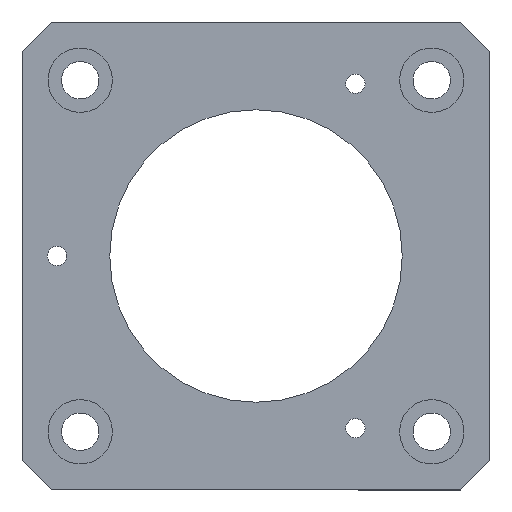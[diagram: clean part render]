
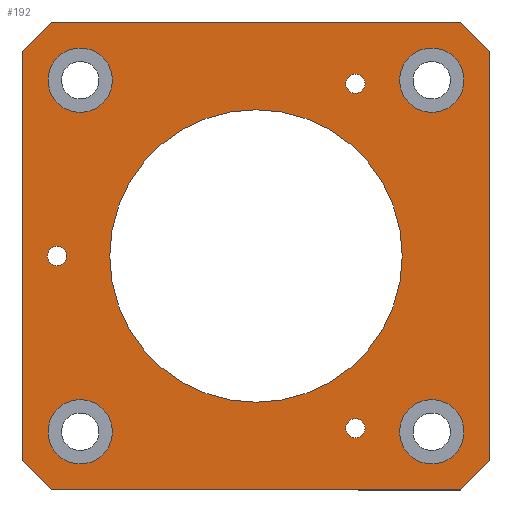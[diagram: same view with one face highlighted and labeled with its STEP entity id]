
A CAD part, left-side view. The second image highlights one B-rep face of the part: STEP entity #192.
In plain terms, the highlighted planar face has unit normal (-1, 0, 0).
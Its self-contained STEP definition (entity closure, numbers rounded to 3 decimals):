
#110 = EDGE_LOOP ( 'NONE', ( #148 ) ) ;
#112 = EDGE_CURVE ( 'NONE', #113, #152, #454, .T. ) ;
#113 = VERTEX_POINT ( 'NONE', #524 ) ;
#115 = VERTEX_POINT ( 'NONE', #480 ) ;
#116 = VERTEX_POINT ( 'NONE', #479 ) ;
#117 = EDGE_CURVE ( 'NONE', #788, #788, #457, .T. ) ;
#118 = ORIENTED_EDGE ( 'NONE', *, *, #191, .F. ) ;
#119 = EDGE_LOOP ( 'NONE', ( #131 ) ) ;
#120 = EDGE_LOOP ( 'NONE', ( #130 ) ) ;
#121 = EDGE_CURVE ( 'NONE', #113, #116, #460, .T. ) ;
#122 = EDGE_LOOP ( 'NONE', ( #190 ) ) ;
#123 = ORIENTED_EDGE ( 'NONE', *, *, #143, .T. ) ;
#124 = EDGE_CURVE ( 'NONE', #125, #115, #465, .T. ) ;
#125 = VERTEX_POINT ( 'NONE', #523 ) ;
#126 = VERTEX_POINT ( 'NONE', #510 ) ;
#129 = EDGE_LOOP ( 'NONE', ( #169 ) ) ;
#130 = ORIENTED_EDGE ( 'NONE', *, *, #173, .F. ) ;
#131 = ORIENTED_EDGE ( 'NONE', *, *, #162, .F. ) ;
#134 = VECTOR ( 'NONE', #141, 1000. ) ;
#137 = EDGE_LOOP ( 'NONE', ( #142 ) ) ;
#140 = CARTESIAN_POINT ( 'NONE',  ( 0., 30.05, -30.05 ) ) ;
#141 = DIRECTION ( 'NONE',  ( 0., -0.707, 0.707 ) ) ;
#142 = ORIENTED_EDGE ( 'NONE', *, *, #117, .T. ) ;
#143 = EDGE_CURVE ( 'NONE', #126, #115, #500, .T. ) ;
#144 = ORIENTED_EDGE ( 'NONE', *, *, #145, .F. ) ;
#145 = EDGE_CURVE ( 'NONE', #164, #146, #493, .T. ) ;
#146 = VERTEX_POINT ( 'NONE', #509 ) ;
#147 = EDGE_LOOP ( 'NONE', ( #118, #123, #193, #168, #144, #167, #150, #184 ) ) ;
#148 = ORIENTED_EDGE ( 'NONE', *, *, #163, .F. ) ;
#150 = ORIENTED_EDGE ( 'NONE', *, *, #112, .F. ) ;
#152 = VERTEX_POINT ( 'NONE', #518 ) ;
#153 = ORIENTED_EDGE ( 'NONE', *, *, #179, .F. ) ;
#155 = EDGE_LOOP ( 'NONE', ( #166 ) ) ;
#162 = EDGE_CURVE ( 'NONE', #786, #786, #488, .T. ) ;
#163 = EDGE_CURVE ( 'NONE', #761, #761, #486, .T. ) ;
#164 = VERTEX_POINT ( 'NONE', #472 ) ;
#165 = EDGE_CURVE ( 'NONE', #125, #146, #203, .T. ) ;
#166 = ORIENTED_EDGE ( 'NONE', *, *, #171, .F. ) ;
#167 = ORIENTED_EDGE ( 'NONE', *, *, #189, .T. ) ;
#168 = ORIENTED_EDGE ( 'NONE', *, *, #165, .T. ) ;
#169 = ORIENTED_EDGE ( 'NONE', *, *, #174, .F. ) ;
#170 = EDGE_CURVE ( 'NONE', #759, #759, #439, .T. ) ;
#171 = EDGE_CURVE ( 'NONE', #757, #757, #438, .T. ) ;
#173 = EDGE_CURVE ( 'NONE', #747, #747, #551, .T. ) ;
#174 = EDGE_CURVE ( 'NONE', #749, #749, #537, .T. ) ;
#179 = EDGE_CURVE ( 'NONE', #751, #751, #553, .T. ) ;
#183 = DIRECTION ( 'NONE',  ( -1., 0., 0. ) ) ;
#184 = ORIENTED_EDGE ( 'NONE', *, *, #121, .T. ) ;
#186 = AXIS2_PLACEMENT_3D ( 'NONE', #140, #183, #474 ) ;
#188 = EDGE_LOOP ( 'NONE', ( #153 ) ) ;
#189 = EDGE_CURVE ( 'NONE', #164, #152, #582, .T. ) ;
#190 = ORIENTED_EDGE ( 'NONE', *, *, #170, .F. ) ;
#191 = EDGE_CURVE ( 'NONE', #126, #116, #565, .T. ) ;
#192 = ADVANCED_FACE ( 'NONE', ( #580, #569, #575, #260, #495, #263, #568, #574, #583 ), #576, .F. ) ;
#193 = ORIENTED_EDGE ( 'NONE', *, *, #124, .F. ) ;
#202 = CARTESIAN_POINT ( 'NONE',  ( 0., -35., -40. ) ) ;
#203 = LINE ( 'NONE', #202, #134 ) ;
#260 = FACE_BOUND ( 'NONE', #120, .T. ) ;
#263 = FACE_BOUND ( 'NONE', #119, .T. ) ;
#347 = AXIS2_PLACEMENT_3D ( 'NONE', #447, #443, #442 ) ;
#438 = CIRCLE ( 'NONE', #347, 1.65 ) ;
#439 = CIRCLE ( 'NONE', #186, 5.5 ) ;
#442 = DIRECTION ( 'NONE',  ( 0., 0., 1. ) ) ;
#443 = DIRECTION ( 'NONE',  ( -1., 0., 0. ) ) ;
#447 = CARTESIAN_POINT ( 'NONE',  ( 0., -17., -29.445 ) ) ;
#454 = LINE ( 'NONE', #513, #512 ) ;
#457 = CIRCLE ( 'NONE', #463, 25. ) ;
#458 = VECTOR ( 'NONE', #481, 1000. ) ;
#459 = CARTESIAN_POINT ( 'NONE',  ( 0., 35., 40. ) ) ;
#460 = LINE ( 'NONE', #459, #458 ) ;
#461 = DIRECTION ( 'NONE',  ( 0., 0., -1. ) ) ;
#462 = DIRECTION ( 'NONE',  ( 1., 0., 0. ) ) ;
#463 = AXIS2_PLACEMENT_3D ( 'NONE', #484, #462, #461 ) ;
#465 = LINE ( 'NONE', #521, #520 ) ;
#469 = DIRECTION ( 'NONE',  ( 0., 0., 1. ) ) ;
#470 = AXIS2_PLACEMENT_3D ( 'NONE', #473, #517, #469 ) ;
#472 = CARTESIAN_POINT ( 'NONE',  ( 0., -40., 35. ) ) ;
#473 = CARTESIAN_POINT ( 'NONE',  ( 0., 34., 0. ) ) ;
#474 = DIRECTION ( 'NONE',  ( 0., 0., 1. ) ) ;
#475 = DIRECTION ( 'NONE',  ( 0., 0., 1. ) ) ;
#476 = DIRECTION ( 'NONE',  ( -1., 0., 0. ) ) ;
#477 = CARTESIAN_POINT ( 'NONE',  ( 0., -30.05, -30.05 ) ) ;
#478 = AXIS2_PLACEMENT_3D ( 'NONE', #477, #476, #475 ) ;
#479 = CARTESIAN_POINT ( 'NONE',  ( 0., 40., 35. ) ) ;
#480 = CARTESIAN_POINT ( 'NONE',  ( 0., 35., -40. ) ) ;
#481 = DIRECTION ( 'NONE',  ( 0., 0.707, -0.707 ) ) ;
#484 = CARTESIAN_POINT ( 'NONE',  ( 0., 0., 0. ) ) ;
#486 = CIRCLE ( 'NONE', #470, 1.65 ) ;
#488 = CIRCLE ( 'NONE', #478, 5.5 ) ;
#490 = DIRECTION ( 'NONE',  ( 0., 0., -1. ) ) ;
#491 = VECTOR ( 'NONE', #490, 1000. ) ;
#492 = CARTESIAN_POINT ( 'NONE',  ( 0., -40., 40. ) ) ;
#493 = LINE ( 'NONE', #492, #491 ) ;
#495 = FACE_BOUND ( 'NONE', #129, .T. ) ;
#497 = DIRECTION ( 'NONE',  ( 0., -0.707, -0.707 ) ) ;
#498 = VECTOR ( 'NONE', #497, 1000. ) ;
#499 = CARTESIAN_POINT ( 'NONE',  ( 0., 40., -35. ) ) ;
#500 = LINE ( 'NONE', #499, #498 ) ;
#509 = CARTESIAN_POINT ( 'NONE',  ( 0., -40., -35. ) ) ;
#510 = CARTESIAN_POINT ( 'NONE',  ( 0., 40., -35. ) ) ;
#511 = DIRECTION ( 'NONE',  ( 0., -1., 0. ) ) ;
#512 = VECTOR ( 'NONE', #511, 1000. ) ;
#513 = CARTESIAN_POINT ( 'NONE',  ( 0., 40., 40. ) ) ;
#517 = DIRECTION ( 'NONE',  ( -1., 0., 0. ) ) ;
#518 = CARTESIAN_POINT ( 'NONE',  ( 0., -35., 40. ) ) ;
#519 = DIRECTION ( 'NONE',  ( 0., 1., 0. ) ) ;
#520 = VECTOR ( 'NONE', #519, 1000. ) ;
#521 = CARTESIAN_POINT ( 'NONE',  ( 0., 40., -40. ) ) ;
#523 = CARTESIAN_POINT ( 'NONE',  ( 0., -35., -40. ) ) ;
#524 = CARTESIAN_POINT ( 'NONE',  ( 0., 35., 40. ) ) ;
#537 = CIRCLE ( 'NONE', #552, 5.5 ) ;
#539 = CARTESIAN_POINT ( 'NONE',  ( 0., -17., 29.445 ) ) ;
#540 = AXIS2_PLACEMENT_3D ( 'NONE', #539, #564, #547 ) ;
#542 = CARTESIAN_POINT ( 'NONE',  ( 0., 30.05, 30.05 ) ) ;
#543 = DIRECTION ( 'NONE',  ( 0., 0., 1. ) ) ;
#544 = CARTESIAN_POINT ( 'NONE',  ( 0., 40., 40. ) ) ;
#547 = DIRECTION ( 'NONE',  ( 0., 0., 1. ) ) ;
#551 = CIRCLE ( 'NONE', #555, 5.5 ) ;
#552 = AXIS2_PLACEMENT_3D ( 'NONE', #561, #560, #559 ) ;
#553 = CIRCLE ( 'NONE', #540, 1.65 ) ;
#555 = AXIS2_PLACEMENT_3D ( 'NONE', #542, #556, #557 ) ;
#556 = DIRECTION ( 'NONE',  ( -1., 0., 0. ) ) ;
#557 = DIRECTION ( 'NONE',  ( 0., 0., 1. ) ) ;
#559 = DIRECTION ( 'NONE',  ( 0., 0., 1. ) ) ;
#560 = DIRECTION ( 'NONE',  ( -1., 0., 0. ) ) ;
#561 = CARTESIAN_POINT ( 'NONE',  ( 0., -30.05, 30.05 ) ) ;
#563 = VECTOR ( 'NONE', #543, 1000. ) ;
#564 = DIRECTION ( 'NONE',  ( -1., 0., 0. ) ) ;
#565 = LINE ( 'NONE', #544, #563 ) ;
#568 = FACE_BOUND ( 'NONE', #110, .T. ) ;
#569 = FACE_OUTER_BOUND ( 'NONE', #147, .T. ) ;
#571 = DIRECTION ( 'NONE',  ( 0., 0., -1. ) ) ;
#572 = DIRECTION ( 'NONE',  ( 1., 0., 0. ) ) ;
#573 = CARTESIAN_POINT ( 'NONE',  ( 0., -40., 40. ) ) ;
#574 = FACE_BOUND ( 'NONE', #155, .T. ) ;
#575 = FACE_BOUND ( 'NONE', #122, .T. ) ;
#576 = PLANE ( 'NONE',  #579 ) ;
#577 = VECTOR ( 'NONE', #581, 1000. ) ;
#578 = CARTESIAN_POINT ( 'NONE',  ( 0., -40., 35. ) ) ;
#579 = AXIS2_PLACEMENT_3D ( 'NONE', #573, #572, #571 ) ;
#580 = FACE_BOUND ( 'NONE', #137, .T. ) ;
#581 = DIRECTION ( 'NONE',  ( 0., 0.707, 0.707 ) ) ;
#582 = LINE ( 'NONE', #578, #577 ) ;
#583 = FACE_BOUND ( 'NONE', #188, .T. ) ;
#747 = VERTEX_POINT ( 'NONE', #752 ) ;
#748 = CARTESIAN_POINT ( 'NONE',  ( 0., -30.05, 35.55 ) ) ;
#749 = VERTEX_POINT ( 'NONE', #748 ) ;
#750 = CARTESIAN_POINT ( 'NONE',  ( 0., -17., 31.095 ) ) ;
#751 = VERTEX_POINT ( 'NONE', #750 ) ;
#752 = CARTESIAN_POINT ( 'NONE',  ( 0., 30.05, 35.55 ) ) ;
#753 = CARTESIAN_POINT ( 'NONE',  ( 0., -17., -27.795 ) ) ;
#757 = VERTEX_POINT ( 'NONE', #753 ) ;
#758 = CARTESIAN_POINT ( 'NONE',  ( 0., 30.05, -24.55 ) ) ;
#759 = VERTEX_POINT ( 'NONE', #758 ) ;
#760 = CARTESIAN_POINT ( 'NONE',  ( 0., 34., 1.65 ) ) ;
#761 = VERTEX_POINT ( 'NONE', #760 ) ;
#762 = CARTESIAN_POINT ( 'NONE',  ( 0., -30.05, -24.55 ) ) ;
#786 = VERTEX_POINT ( 'NONE', #762 ) ;
#787 = CARTESIAN_POINT ( 'NONE',  ( 0., 0., -25. ) ) ;
#788 = VERTEX_POINT ( 'NONE', #787 ) ;
